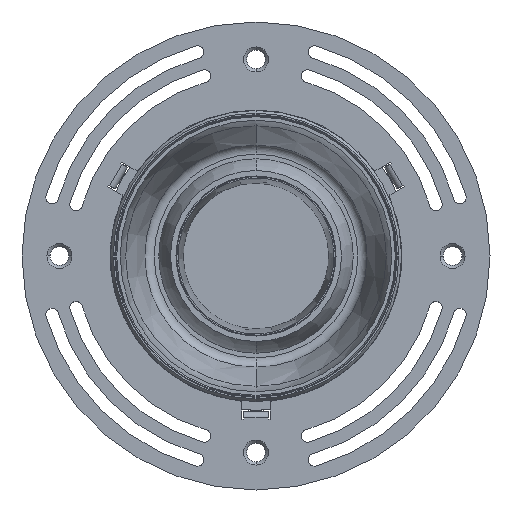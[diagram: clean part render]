
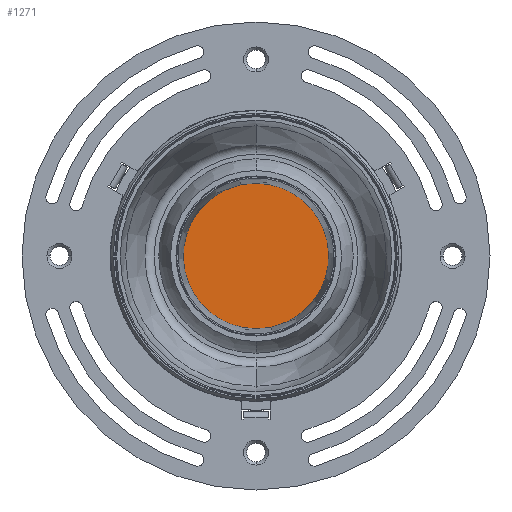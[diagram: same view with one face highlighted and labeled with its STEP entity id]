
A CAD part, front view. The second image highlights one B-rep face of the part: STEP entity #1271.
In plain terms, the highlighted planar face has unit normal (0, -1, 0).
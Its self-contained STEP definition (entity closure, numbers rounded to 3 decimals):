
#1025 = DIRECTION ( 'NONE',  ( 0., -1., 0. ) ) ;
#1085 = CARTESIAN_POINT ( 'NONE',  ( 0., -33.157, 0. ) ) ;
#1271 = ADVANCED_FACE ( 'NONE', ( #4106 ), #3045, .T. ) ;
#1707 = AXIS2_PLACEMENT_3D ( 'NONE', #1085, #1025, #4642 ) ;
#2257 = AXIS2_PLACEMENT_3D ( 'NONE', #10524, #6916, #7697 ) ;
#3045 = PLANE ( 'NONE',  #4525 ) ;
#3064 = VERTEX_POINT ( 'NONE', #4393 ) ;
#3455 = DIRECTION ( 'NONE',  ( 0., 0., -1. ) ) ;
#4106 = FACE_OUTER_BOUND ( 'NONE', #5296, .T. ) ;
#4393 = CARTESIAN_POINT ( 'NONE',  ( 0., -33.157, -26.453 ) ) ;
#4460 = CARTESIAN_POINT ( 'NONE',  ( 0., -33.157, 26.453 ) ) ;
#4525 = AXIS2_PLACEMENT_3D ( 'NONE', #4772, #8408, #3455 ) ;
#4642 = DIRECTION ( 'NONE',  ( 0., 0., -1. ) ) ;
#4772 = CARTESIAN_POINT ( 'NONE',  ( 0., -33.157, 0. ) ) ;
#5296 = EDGE_LOOP ( 'NONE', ( #9968, #10983 ) ) ;
#6049 = CIRCLE ( 'NONE', #2257, 26.453 ) ;
#6916 = DIRECTION ( 'NONE',  ( 0., -1., 0. ) ) ;
#7697 = DIRECTION ( 'NONE',  ( 0., 0., -1. ) ) ;
#8047 = EDGE_CURVE ( 'NONE', #11697, #3064, #6049, .T. ) ;
#8408 = DIRECTION ( 'NONE',  ( 0., -1., 0. ) ) ;
#9968 = ORIENTED_EDGE ( 'NONE', *, *, #10076, .T. ) ;
#10050 = CIRCLE ( 'NONE', #1707, 26.453 ) ;
#10076 = EDGE_CURVE ( 'NONE', #3064, #11697, #10050, .T. ) ;
#10524 = CARTESIAN_POINT ( 'NONE',  ( 0., -33.157, 0. ) ) ;
#10983 = ORIENTED_EDGE ( 'NONE', *, *, #8047, .T. ) ;
#11697 = VERTEX_POINT ( 'NONE', #4460 ) ;
